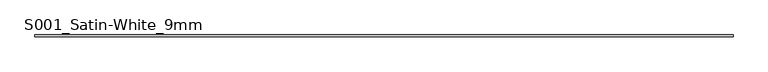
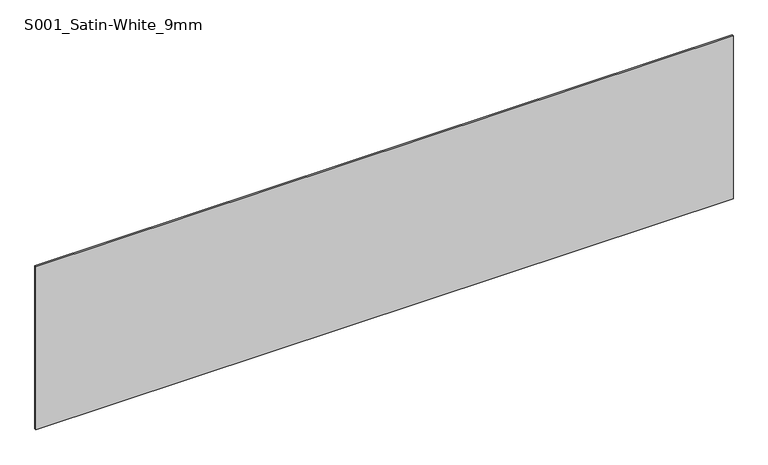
"""IFC4 building model written with IfcOpenShell, lengths in millimetres: plate geometry, Curtain-Panels_Outdoor-Material_HI-MACS_Solids : S001_Satin-White_9mm."""

from ifc_helpers import new_model, si_unit, origin, origin_with_axes, place, context, project, spatial, polyline, outline, extrude, source, transform, mapped, element, save


def s001_satin_white_9mm_aa1e5eb6(model_context):
    return source(origin(), model_context, "Body", "SweptSolid", [
        extrude(outline(polyline([(1840.0, 4.5), (1840.0, -4.5), (-1840.0, -4.5), (-1840.0, 4.5), (1840.0, 4.5)])), origin_with_axes(), (0.0, 0.0, 1.0), 910.0),
    ])


if __name__ == "__main__":
    model = new_model("IFC4")
    model_context = context("Model", 3, world=origin())
    ifc_project = project(units=[si_unit("LENGTHUNIT", "METRE", prefix="MILLI")], contexts=[model_context])
    site = spatial("IfcSite", under=ifc_project)
    building = spatial("IfcBuilding", under=site)
    placement = place(None, origin())
    s001_satin_white_9mm_shape = s001_satin_white_9mm_aa1e5eb6(model_context)
    element("IfcPlate", 1, ObjectType="Curtain-Panels_Outdoor-Material_HI-MACS_Solids : S001_Satin-White_9mm", at=placement, inside=building, context=model_context, shape_type="MappedRepresentation", body=[
        mapped(s001_satin_white_9mm_shape, transform((0.0, 0.0, 0.0), x_axis=(1.0, 0.0, 0.0), y_axis=(0.0, 1.0, 0.0), z_axis=(0.0, 0.0, 1.0))),
    ])
    save(model, "model.ifc")
